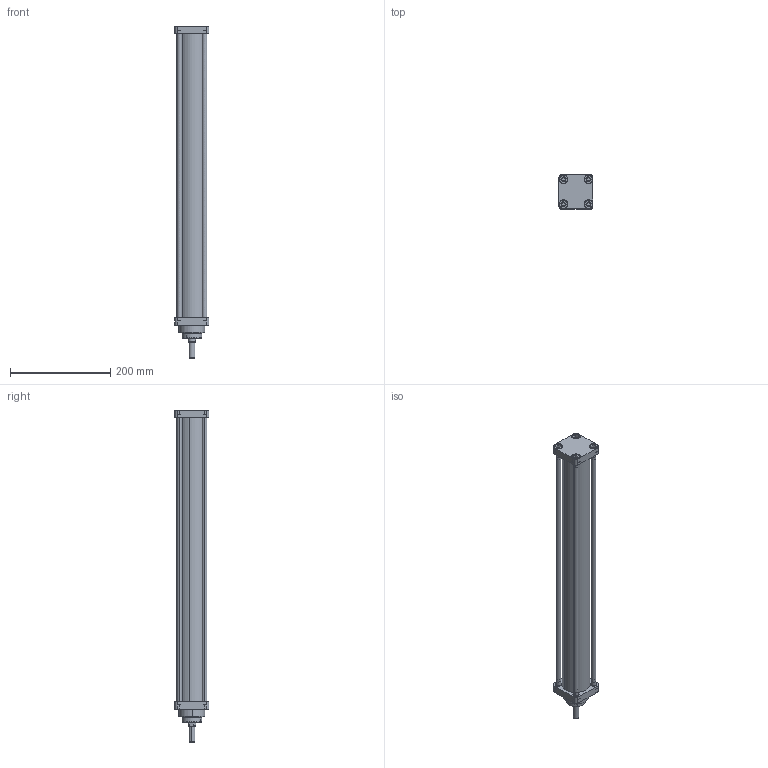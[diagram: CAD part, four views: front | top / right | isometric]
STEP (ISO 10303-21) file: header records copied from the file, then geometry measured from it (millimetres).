
FILE_DESCRIPTION (( 'STEP AP214' ), '1' );
FILE_NAME ('TLSK_50_1000_2KDM.STEP', '2019-03-12T08:52:43', ( '' ), ( '' ), 'SwSTEP 2.0', 'SolidWorks 2018', '' );
FILE_SCHEMA (( 'AUTOMOTIVE_DESIGN' ));
Length unit declared in the file: millimetre
Products named in the file (15): 50X55_1000_BORU; 50_1000_ON_KAPAK_yuv_boru; 50_lastik_darbe; 40_35_1000_boru2; M8_SAPLAMA_1000; 16_M尳_teleskopik_1000; pap_40_12; Kastas Seals-KO-32X2_5; K52_16_BOGAZKECESI; 50_1000_ARKA_KAPAK_yuv_boru; KASTAS-K103-040; 16_PAP_YUZUK; CIVATA; TLSK_50_1000_2KDM; 50_1000_26_boru_kapak_teleskopik2
Assembly tree (24 placements, depth 2):
  TLSK_50_1000_2KDM
    40_35_1000_boru2
    16_M尳_teleskopik_1000
    50_1000_26_boru_kapak_teleskopik2
    16_PAP_YUZUK
    K52_16_BOGAZKECESI
    KASTAS-K103-040
    pap_40_12
    Kastas Seals-KO-32X2_5
    50_lastik_darbe
    50_1000_ON_KAPAK_yuv_boru
    50_1000_ARKA_KAPAK_yuv_boru
    50X55_1000_BORU
    M8_SAPLAMA_1000  x4
    CIVATA  x8
Bounding box: 68 x 68 x 664 mm (x, y, z)
Volume: 825224.3 mm3; surface area: 494859.5 mm2
Topology: 24 solids, 24 shells, 624 faces, 1356 edges, 840 vertices
Faces by surface type: cylinder 238, plane 200, cone 148, torus 24, bspline 14
Entity records: 13975 total; most frequent: CARTESIAN_POINT 3824, DIRECTION 2065, ORIENTED_EDGE 1736, EDGE_CURVE 868, AXIS2_PLACEMENT_3D 863, VERTEX_POINT 538, CIRCLE 466, EDGE_LOOP 466
